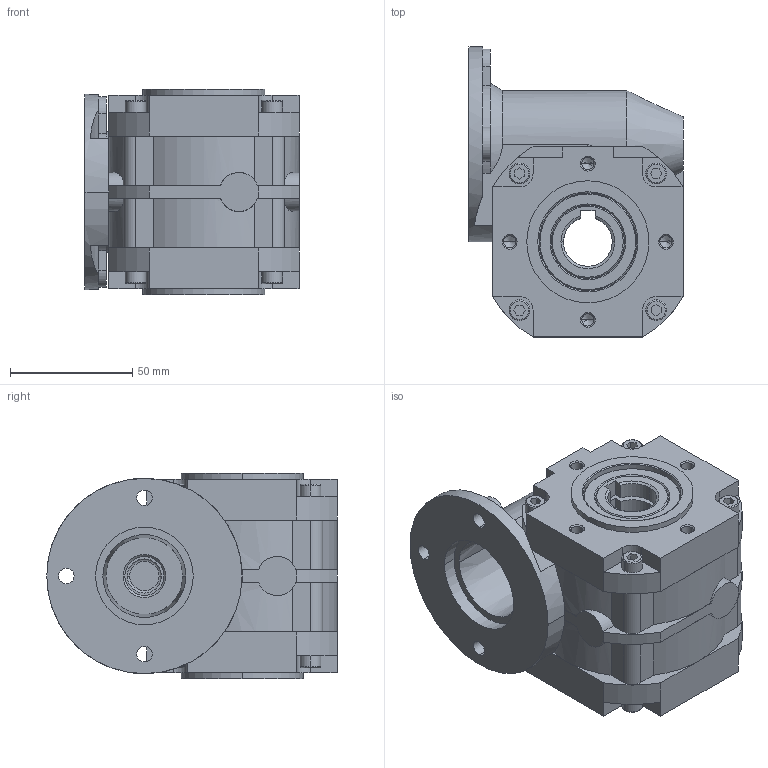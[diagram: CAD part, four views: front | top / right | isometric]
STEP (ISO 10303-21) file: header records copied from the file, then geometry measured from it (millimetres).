
FILE_DESCRIPTION (( 'STEP AP214' ), '1' );
FILE_NAME ('SC401H.STEP', '2010-10-12T11:39:05', ( ' ' ), ( '' ), 'SwSTEP 2.0', 'SolidWorks 2010', '' );
FILE_SCHEMA (( 'AUTOMOTIVE_DESIGN' ));
Length unit declared in the file: millimetre
Products named in the file (1): SC401H
Bounding box: 87.7 x 119 x 84.2 mm (x, y, z)
Volume: 432059.1 mm3; surface area: 68156 mm2
Topology: 1 solids, 1 shells, 386 faces, 962 edges, 600 vertices
Faces by surface type: plane 185, cylinder 123, cone 60, torus 18
Entity records: 12298 total; most frequent: CARTESIAN_POINT 2266, DIRECTION 2034, ORIENTED_EDGE 1892, EDGE_CURVE 946, AXIS2_PLACEMENT_3D 732, VERTEX_POINT 600, VECTOR 570, LINE 570
